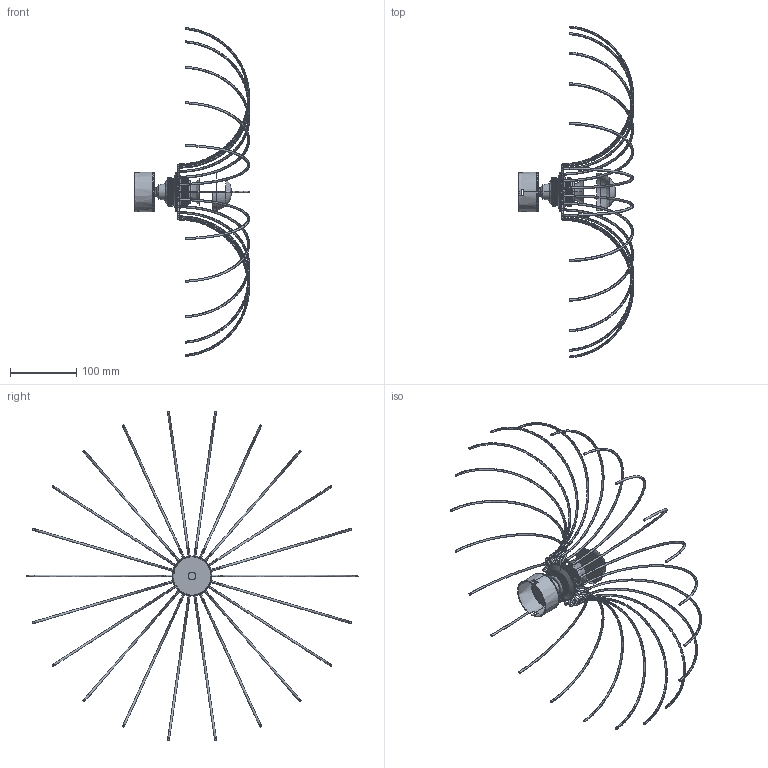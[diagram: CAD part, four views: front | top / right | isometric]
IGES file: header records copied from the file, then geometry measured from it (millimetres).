
Start section: SolidWorks IGES file using analytic representation for surfaces
Global section: file name: C:\Users\Agus\Desktop\Libreria modelos\A1163\A1163-50\A1163-50.IGS; native system: SolidWorks 2016; preprocessor: SolidWorks 2016; author: Agus; date: 171006.184956; units: millimetre
Bounding box: 174 x 502.2 x 497.11 mm (x, y, z)
Surface area: 130416.8 mm2 (no closed solid volume)
Topology: 0 solids, 0 shells, 382 faces, 6259 edges, 6258 vertices
Faces by surface type: bspline 213, revolution 169
